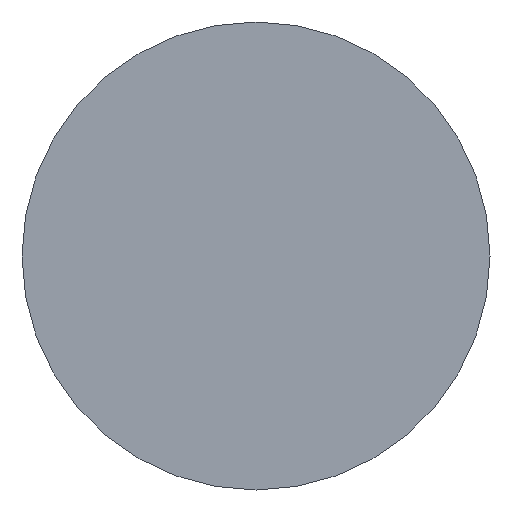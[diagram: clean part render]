
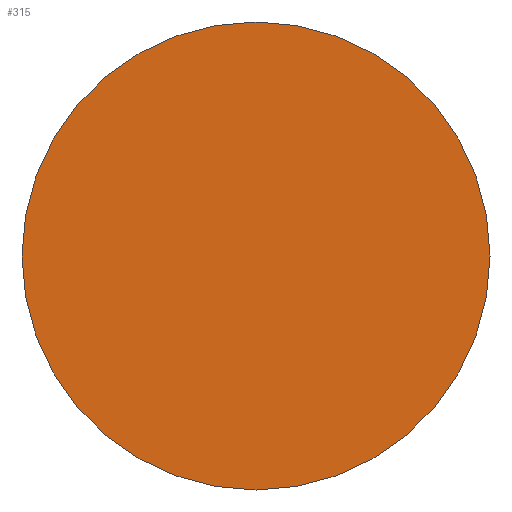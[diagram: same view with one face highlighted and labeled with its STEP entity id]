
A CAD part, front view. The second image highlights one B-rep face of the part: STEP entity #315.
In plain terms, the highlighted planar face has unit normal (0, -1, 0).
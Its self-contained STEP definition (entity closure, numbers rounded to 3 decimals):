
#41 = CARTESIAN_POINT ( 'NONE',  ( 0., 0., 6.5 ) ) ;
#131 = DIRECTION ( 'NONE',  ( 0., 0., -1. ) ) ;
#133 = DIRECTION ( 'NONE',  ( 0., -1., 0. ) ) ;
#136 = PLANE ( 'NONE',  #1999 ) ;
#218 = EDGE_CURVE ( 'NONE', #1471, #1472, #1788, .T. ) ;
#236 = EDGE_CURVE ( 'NONE', #1472, #1471, #1793, .T. ) ;
#315 = ADVANCED_FACE ( 'NONE', ( #1839 ), #136, .T. ) ;
#529 = DIRECTION ( 'NONE',  ( 0., 0., -1. ) ) ;
#532 = DIRECTION ( 'NONE',  ( 0., -1., 0. ) ) ;
#539 = DIRECTION ( 'NONE',  ( 0., 0., -1. ) ) ;
#540 = DIRECTION ( 'NONE',  ( 0., -1., 0. ) ) ;
#541 = CARTESIAN_POINT ( 'NONE',  ( 0., 0., 0. ) ) ;
#560 = CARTESIAN_POINT ( 'NONE',  ( 0., 0., 0. ) ) ;
#1217 = ORIENTED_EDGE ( 'NONE', *, *, #236, .T. ) ;
#1218 = ORIENTED_EDGE ( 'NONE', *, *, #218, .T. ) ;
#1265 = EDGE_LOOP ( 'NONE', ( #1218, #1217 ) ) ;
#1471 = VERTEX_POINT ( 'NONE', #2755 ) ;
#1472 = VERTEX_POINT ( 'NONE', #2756 ) ;
#1788 = CIRCLE ( 'NONE', #1984, 13. ) ;
#1793 = CIRCLE ( 'NONE', #1987, 13. ) ;
#1839 = FACE_OUTER_BOUND ( 'NONE', #1265, .T. ) ;
#1984 = AXIS2_PLACEMENT_3D ( 'NONE', #541, #540, #539 ) ;
#1987 = AXIS2_PLACEMENT_3D ( 'NONE', #560, #532, #529 ) ;
#1999 = AXIS2_PLACEMENT_3D ( 'NONE', #41, #133, #131 ) ;
#2755 = CARTESIAN_POINT ( 'NONE',  ( 0., 0., -13. ) ) ;
#2756 = CARTESIAN_POINT ( 'NONE',  ( 0., 0., 13. ) ) ;
